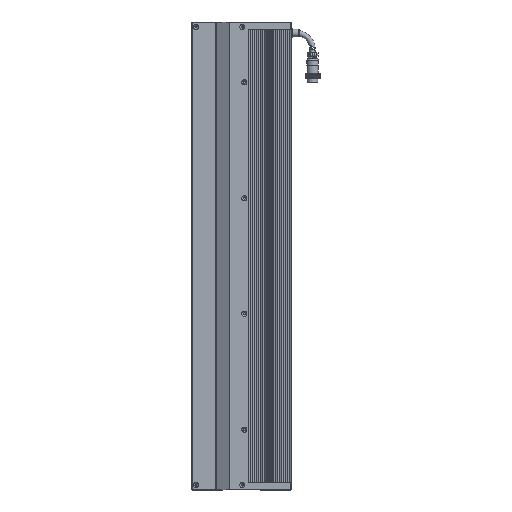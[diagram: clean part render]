
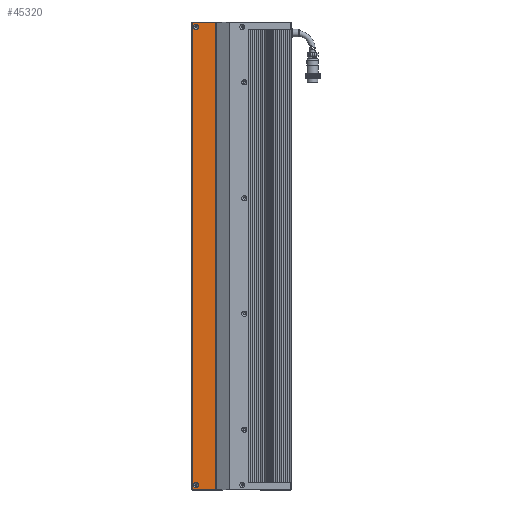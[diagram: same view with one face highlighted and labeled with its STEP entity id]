
A CAD part, left-side view. The second image highlights one B-rep face of the part: STEP entity #45320.
In plain terms, the highlighted planar face has unit normal (-1, 0, 0).
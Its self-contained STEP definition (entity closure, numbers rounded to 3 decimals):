
#576 = ORIENTED_EDGE ( 'NONE', *, *, #85595, .F. ) ;
#1401 = CARTESIAN_POINT ( 'NONE',  ( -15.462, 21.439, 683.5 ) ) ;
#8541 = EDGE_CURVE ( 'NONE', #36887, #36887, #122424, .T. ) ;
#10573 = VERTEX_POINT ( 'NONE', #11083 ) ;
#11083 = CARTESIAN_POINT ( 'NONE',  ( -15.462, 21.439, 120. ) ) ;
#12352 = VECTOR ( 'NONE', #63898, 1000. ) ;
#14539 = EDGE_CURVE ( 'NONE', #51979, #62433, #60882, .T. ) ;
#20561 = DIRECTION ( 'NONE',  ( 1., 0., 0. ) ) ;
#21634 = EDGE_LOOP ( 'NONE', ( #49096, #90572, #576, #93760 ) ) ;
#24527 = LINE ( 'NONE', #1401, #59560 ) ;
#25513 = DIRECTION ( 'NONE',  ( 0., -1., 0. ) ) ;
#26969 = AXIS2_PLACEMENT_3D ( 'NONE', #79656, #20561, #88937 ) ;
#28569 = EDGE_CURVE ( 'NONE', #74072, #10573, #105146, .T. ) ;
#30375 = CARTESIAN_POINT ( 'NONE',  ( -15.462, 21.439, 685. ) ) ;
#32870 = ORIENTED_EDGE ( 'NONE', *, *, #95744, .F. ) ;
#33750 = CARTESIAN_POINT ( 'NONE',  ( -15.462, -6.987, 120. ) ) ;
#36887 = VERTEX_POINT ( 'NONE', #89704 ) ;
#38960 = CIRCLE ( 'NONE', #62388, 3.15 ) ;
#39525 = EDGE_LOOP ( 'NONE', ( #49221 ) ) ;
#42121 = LINE ( 'NONE', #90498, #112104 ) ;
#45320 = ADVANCED_FACE ( 'NONE', ( #74969, #90224, #110029 ), #51160, .F. ) ;
#49096 = ORIENTED_EDGE ( 'NONE', *, *, #111048, .F. ) ;
#49221 = ORIENTED_EDGE ( 'NONE', *, *, #8541, .F. ) ;
#51160 = PLANE ( 'NONE',  #26969 ) ;
#51868 = CARTESIAN_POINT ( 'NONE',  ( -15.462, 13.789, 679.5 ) ) ;
#51951 = DIRECTION ( 'NONE',  ( 0., -1., 0. ) ) ;
#51979 = VERTEX_POINT ( 'NONE', #30375 ) ;
#53453 = EDGE_LOOP ( 'NONE', ( #32870 ) ) ;
#59560 = VECTOR ( 'NONE', #107276, 1000. ) ;
#60882 = LINE ( 'NONE', #80825, #85262 ) ;
#61738 = DIRECTION ( 'NONE',  ( -1., 0., 0. ) ) ;
#62388 = AXIS2_PLACEMENT_3D ( 'NONE', #79635, #61738, #51951 ) ;
#62433 = VERTEX_POINT ( 'NONE', #113303 ) ;
#63898 = DIRECTION ( 'NONE',  ( 0., 1., 0. ) ) ;
#67623 = AXIS2_PLACEMENT_3D ( 'NONE', #101626, #92657, #25513 ) ;
#71740 = VERTEX_POINT ( 'NONE', #51868 ) ;
#74072 = VERTEX_POINT ( 'NONE', #33750 ) ;
#74969 = FACE_BOUND ( 'NONE', #39525, .T. ) ;
#79635 = CARTESIAN_POINT ( 'NONE',  ( -15.462, 16.939, 679.5 ) ) ;
#79656 = CARTESIAN_POINT ( 'NONE',  ( -15.462, -7.561, 683.5 ) ) ;
#80825 = CARTESIAN_POINT ( 'NONE',  ( -15.462, -7.561, 685. ) ) ;
#85262 = VECTOR ( 'NONE', #109739, 1000. ) ;
#85595 = EDGE_CURVE ( 'NONE', #62433, #74072, #42121, .T. ) ;
#88937 = DIRECTION ( 'NONE',  ( 0., 1., 0. ) ) ;
#89704 = CARTESIAN_POINT ( 'NONE',  ( -15.462, 13.789, 125.5 ) ) ;
#90224 = FACE_BOUND ( 'NONE', #53453, .T. ) ;
#90498 = CARTESIAN_POINT ( 'NONE',  ( -15.462, -6.987, 683.5 ) ) ;
#90572 = ORIENTED_EDGE ( 'NONE', *, *, #28569, .F. ) ;
#92358 = CARTESIAN_POINT ( 'NONE',  ( -15.462, -7.561, 120. ) ) ;
#92657 = DIRECTION ( 'NONE',  ( -1., 0., 0. ) ) ;
#93760 = ORIENTED_EDGE ( 'NONE', *, *, #14539, .F. ) ;
#95744 = EDGE_CURVE ( 'NONE', #71740, #71740, #38960, .T. ) ;
#101626 = CARTESIAN_POINT ( 'NONE',  ( -15.462, 16.939, 125.5 ) ) ;
#105146 = LINE ( 'NONE', #92358, #12352 ) ;
#107276 = DIRECTION ( 'NONE',  ( 0., 0., 1. ) ) ;
#109739 = DIRECTION ( 'NONE',  ( 0., -1., 0. ) ) ;
#110029 = FACE_OUTER_BOUND ( 'NONE', #21634, .T. ) ;
#110087 = DIRECTION ( 'NONE',  ( 0., 0., -1. ) ) ;
#111048 = EDGE_CURVE ( 'NONE', #10573, #51979, #24527, .T. ) ;
#112104 = VECTOR ( 'NONE', #110087, 1000. ) ;
#113303 = CARTESIAN_POINT ( 'NONE',  ( -15.462, -6.987, 685. ) ) ;
#122424 = CIRCLE ( 'NONE', #67623, 3.15 ) ;
